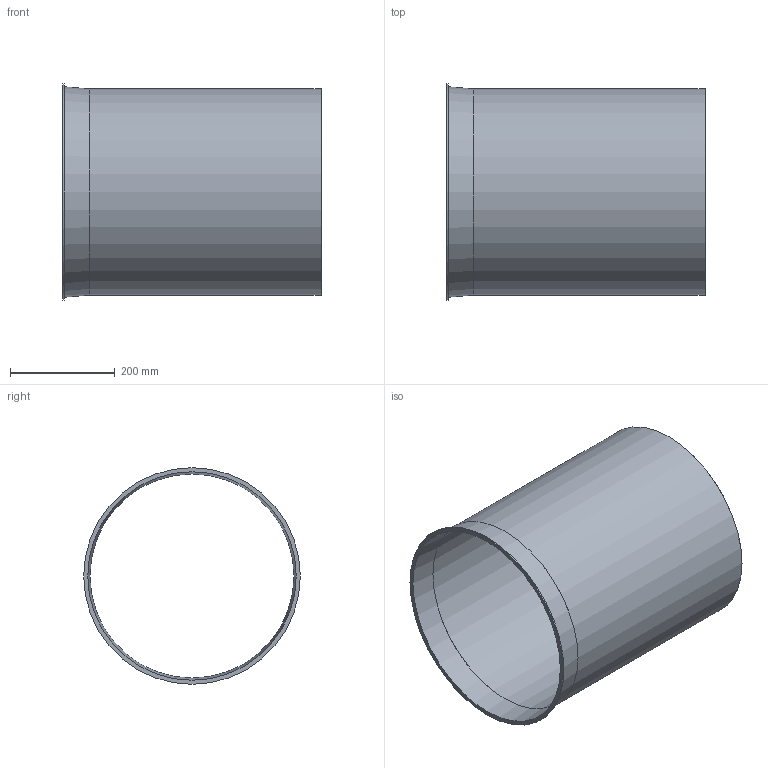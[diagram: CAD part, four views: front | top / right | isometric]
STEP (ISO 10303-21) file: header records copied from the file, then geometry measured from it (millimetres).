
FILE_DESCRIPTION((''),'2;1');
FILE_NAME('U:\Wolfgang\Marcel-3D\fertig\Kapitel 1\4011007.stp','2010-05-31T12:33:46',('TK2'),(''),'Autodesk Inventor 2010','Autodesk Inventor 2010','');
FILE_SCHEMA(('AUTOMOTIVE_DESIGN { 1 0 10303 214 1 1 1 1 }'));
Length unit declared in the file: millimetre
Products named in the file (1): 4011007
Bounding box: 493 x 414 x 414 mm (x, y, z)
Volume: 1231171.8 mm3; surface area: 1236224.4 mm2
Topology: 1 solids, 1 shells, 8 faces, 14 edges, 9 vertices
Faces by surface type: cylinder 3, plane 3, cone 2
Full cylindrical faces by diameter (mm): 390 x1, 394 x1, 414 x1
Entity records: 194 total; most frequent: DIRECTION 34, CARTESIAN_POINT 25, AXIS2_PLACEMENT_3D 17, ORIENTED_EDGE 16, EDGE_LOOP 16, VERTEX_POINT 8, CIRCLE 8, EDGE_CURVE 8
